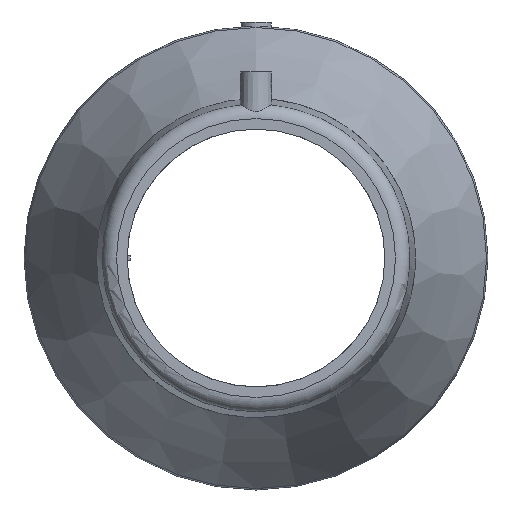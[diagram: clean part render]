
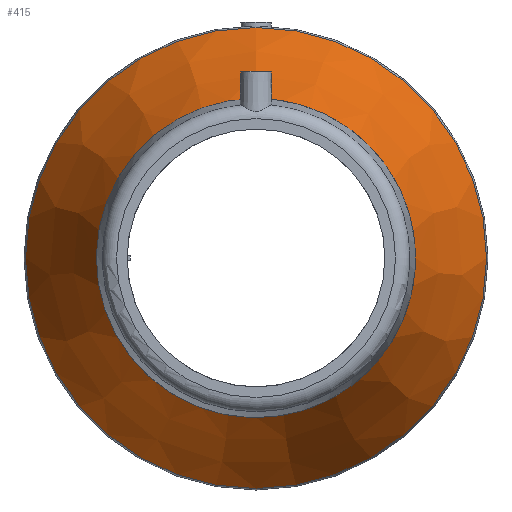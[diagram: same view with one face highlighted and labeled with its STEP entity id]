
A CAD part, left-side view. The second image highlights one B-rep face of the part: STEP entity #415.
In plain terms, the highlighted conical face has half-angle 25.821 degrees and reference radius 144 mm.
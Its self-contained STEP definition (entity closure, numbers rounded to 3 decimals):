
#77=CIRCLE('',#472,99.);
#78=CIRCLE('',#473,143.101);
#113=ORIENTED_EDGE('',*,*,#201,.F.);
#114=ORIENTED_EDGE('',*,*,#202,.T.);
#201=EDGE_CURVE('',#245,#245,#77,.T.);
#202=EDGE_CURVE('',#246,#246,#78,.T.);
#245=VERTEX_POINT('',#730);
#246=VERTEX_POINT('',#732);
#286=EDGE_LOOP('',(#113));
#287=EDGE_LOOP('',(#114));
#350=FACE_BOUND('',#286,.T.);
#351=FACE_BOUND('',#287,.T.);
#406=CONICAL_SURFACE('',#471,144.,0.451);
#415=ADVANCED_FACE('',(#350,#351),#406,.T.);
#471=AXIS2_PLACEMENT_3D('',#728,#551,#552);
#472=AXIS2_PLACEMENT_3D('',#729,#553,#554);
#473=AXIS2_PLACEMENT_3D('',#731,#555,#556);
#551=DIRECTION('',(1.,0.,0.));
#552=DIRECTION('',(0.,0.,-1.));
#553=DIRECTION('',(-1.,0.,0.));
#554=DIRECTION('',(0.,0.,1.));
#555=DIRECTION('',(-1.,0.,0.));
#556=DIRECTION('',(0.,0.,1.));
#728=CARTESIAN_POINT('',(46.5,0.,0.));
#729=CARTESIAN_POINT('',(-46.5,0.,0.));
#730=CARTESIAN_POINT('',(-46.5,0.,99.));
#731=CARTESIAN_POINT('',(44.643,0.,0.));
#732=CARTESIAN_POINT('',(44.643,0.,143.101));
